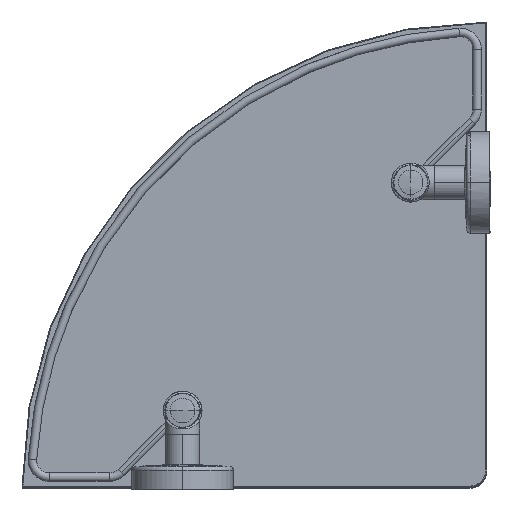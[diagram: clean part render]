
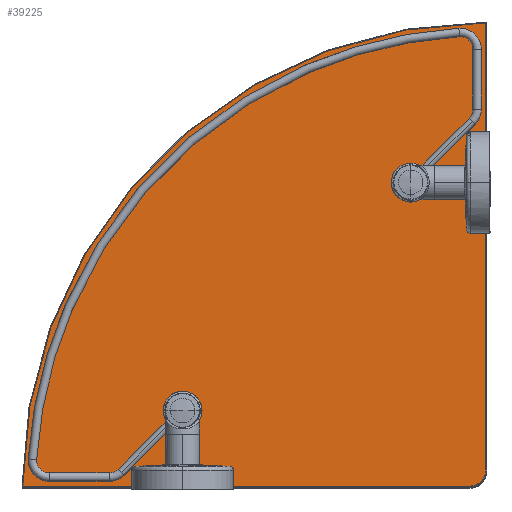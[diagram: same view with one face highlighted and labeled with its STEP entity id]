
A CAD part, top view. The second image highlights one B-rep face of the part: STEP entity #39225.
In plain terms, the highlighted planar face has unit normal (0, 0, 1).
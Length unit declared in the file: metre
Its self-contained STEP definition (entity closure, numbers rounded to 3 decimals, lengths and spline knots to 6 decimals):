
#38946=VERTEX_POINT('',#38947);
#38947=CARTESIAN_POINT('',(0.141,0.1679,-0.0631));
#38953=EDGE_CURVE('',#38954,#38946,#38956,.T.);
#38954=VERTEX_POINT('',#38955);
#38955=CARTESIAN_POINT('',(0.129,0.1679,-0.0631));
#38956=CIRCLE('',#38957,0.006);
#38957=AXIS2_PLACEMENT_3D('',#38958,#38959,#38960);
#38958=CARTESIAN_POINT('',(0.135,0.1679,-0.0631));
#38959=DIRECTION('',(0.0,0.0,-1.0));
#38960=DIRECTION('',(-1.0,0.0,0.0));
#38988=VERTEX_POINT('',#38989);
#38989=CARTESIAN_POINT('',(0.006,0.0329,-0.0631));
#38995=EDGE_CURVE('',#38996,#38988,#38998,.T.);
#38996=VERTEX_POINT('',#38997);
#38997=CARTESIAN_POINT('',(-0.006,0.0329,-0.0631));
#38998=CIRCLE('',#38999,0.006);
#38999=AXIS2_PLACEMENT_3D('',#39000,#39001,#39002);
#39000=CARTESIAN_POINT('',(0.0,0.0329,-0.0631));
#39001=DIRECTION('',(0.0,0.0,-1.0));
#39002=DIRECTION('',(-1.0,0.0,0.0));
#39126=CARTESIAN_POINT('',(0.006,0.0329,-0.0631));
#39127=EDGE_CURVE('',#38988,#38996,#39128,.T.);
#39128=(B_SPLINE_CURVE(3,(#39126,#39129,#39130,#39131),.UNSPECIFIED.,.F.,
  .U.)B_SPLINE_CURVE_WITH_KNOTS((4,4),(0.0,1.0),.UNSPECIFIED.)BOUNDED_CURVE(
  )CURVE()GEOMETRIC_REPRESENTATION_ITEM()RATIONAL_B_SPLINE_CURVE((1.0,
  0.333,0.333,1.0))REPRESENTATION_ITEM(''));
#39129=CARTESIAN_POINT('',(0.006,0.0209,-0.0631));
#39130=CARTESIAN_POINT('',(-0.006,0.0209,-0.0631));
#39131=CARTESIAN_POINT('',(-0.006,0.0329,-0.0631));
#39145=CARTESIAN_POINT('',(0.141,0.1679,-0.0631));
#39146=EDGE_CURVE('',#38946,#38954,#39147,.T.);
#39147=(B_SPLINE_CURVE(3,(#39145,#39148,#39149,#39150),.UNSPECIFIED.,.F.,
  .U.)B_SPLINE_CURVE_WITH_KNOTS((4,4),(0.0,1.0),.UNSPECIFIED.)BOUNDED_CURVE(
  )CURVE()GEOMETRIC_REPRESENTATION_ITEM()RATIONAL_B_SPLINE_CURVE((1.0,
  0.333,0.333,1.0))REPRESENTATION_ITEM(''));
#39148=CARTESIAN_POINT('',(0.141,0.1559,-0.0631));
#39149=CARTESIAN_POINT('',(0.129,0.1559,-0.0631));
#39150=CARTESIAN_POINT('',(0.129,0.1679,-0.0631));
#39225=ADVANCED_FACE('',(#39231,#39267,#39271),#39226,.F.);
#39226=PLANE('',#39227);
#39227=AXIS2_PLACEMENT_3D('',#39228,#39229,#39230);
#39228=CARTESIAN_POINT('',(0.18,-0.0121,-0.0631));
#39229=DIRECTION('',(0.0,0.0,-1.0));
#39230=DIRECTION('',(0.0,-1.0,0.0));
#39231=FACE_OUTER_BOUND('',#39232,.T.);
#39232=EDGE_LOOP('',(#39233,#39244,#39252,#39261));
#39233=ORIENTED_EDGE('',*,*,#39234,.T.);
#39234=EDGE_CURVE('',#39235,#39237,#39239,.F.);
#39235=VERTEX_POINT('',#39236);
#39236=CARTESIAN_POINT('',(0.1795,0.2624,-0.0631));
#39237=VERTEX_POINT('',#39238);
#39238=CARTESIAN_POINT('',(-0.0945,-0.0116,-0.0631));
#39239=CIRCLE('',#39240,0.2745);
#39240=AXIS2_PLACEMENT_3D('',#39241,#39242,#39243);
#39241=CARTESIAN_POINT('',(0.18,-0.0121,-0.0631));
#39242=DIRECTION('',(0.0,0.0,-1.0));
#39243=DIRECTION('',(-1.0,0.0,0.0));
#39244=ORIENTED_EDGE('',*,*,#39245,.T.);
#39245=EDGE_CURVE('',#39237,#39246,#39248,.T.);
#39246=VERTEX_POINT('',#39247);
#39247=CARTESIAN_POINT('',(0.17,-0.0116,-0.0631));
#39248=LINE('',#39249,#39250);
#39249=CARTESIAN_POINT('',(0.18,-0.0116,-0.0631));
#39250=VECTOR('',#39251,1.0);
#39251=DIRECTION('',(1.0,0.,0.0));
#39252=ORIENTED_EDGE('',*,*,#39253,.T.);
#39253=EDGE_CURVE('',#39246,#39254,#39256,.F.);
#39254=VERTEX_POINT('',#39255);
#39255=CARTESIAN_POINT('',(0.1795,-0.0021,-0.0631));
#39256=CIRCLE('',#39257,0.0095);
#39257=AXIS2_PLACEMENT_3D('',#39258,#39259,#39260);
#39258=CARTESIAN_POINT('',(0.17,-0.0021,-0.0631));
#39259=DIRECTION('',(0.0,0.0,-1.0));
#39260=DIRECTION('',(-1.0,0.0,0.0));
#39261=ORIENTED_EDGE('',*,*,#39262,.T.);
#39262=EDGE_CURVE('',#39254,#39235,#39263,.T.);
#39263=LINE('',#39264,#39265);
#39264=CARTESIAN_POINT('',(0.1795,-0.0121,-0.0631));
#39265=VECTOR('',#39266,1.0);
#39266=DIRECTION('',(0.0,1.0,0.0));
#39267=FACE_BOUND('',#39268,.T.);
#39268=EDGE_LOOP('',(#39269,#39270));
#39269=ORIENTED_EDGE('',*,*,#38953,.T.);
#39270=ORIENTED_EDGE('',*,*,#39146,.T.);
#39271=FACE_BOUND('',#39272,.T.);
#39272=EDGE_LOOP('',(#39273,#39274));
#39273=ORIENTED_EDGE('',*,*,#38995,.T.);
#39274=ORIENTED_EDGE('',*,*,#39127,.T.);
